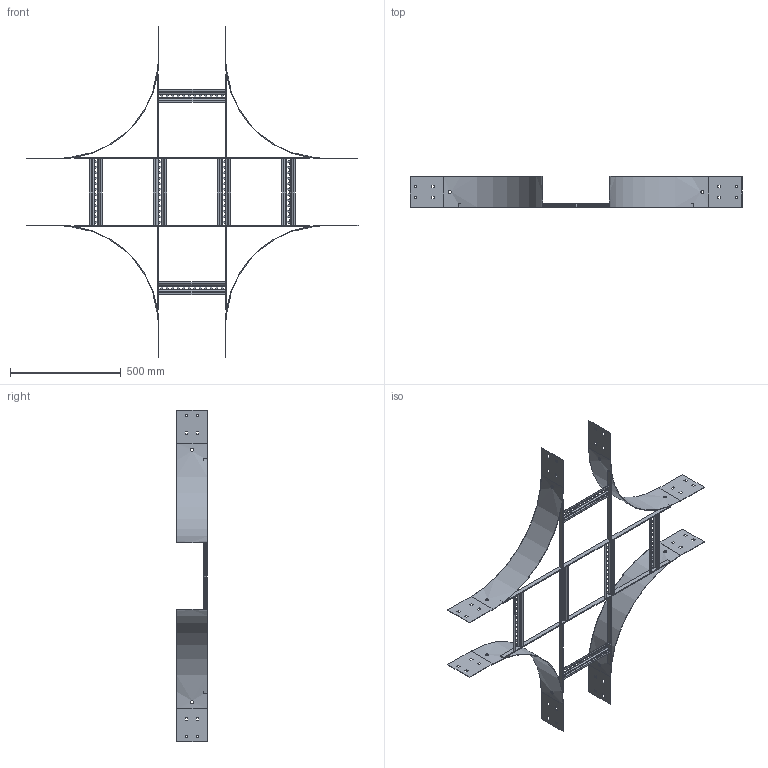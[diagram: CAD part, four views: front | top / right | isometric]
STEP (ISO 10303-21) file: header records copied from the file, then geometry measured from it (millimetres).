
FILE_DESCRIPTION (( 'STEP AP203' ), '1' );
FILE_NAME ('N20C C 3004.STEP', '2024-08-29T00:03:39', ( '' ), ( '' ), 'SwSTEP 2.0', 'SolidWorks 2023', '' );
FILE_SCHEMA (( 'CONFIG_CONTROL_DESIGN' ));
Length unit declared in the file: millimetre
Products named in the file (5): N20C C 3004; N20C RADIUS PLATE_N1-450 IR; Ladder Rung_Ladder Rung -  300mm; Ladder Tee 20x5 Flat Bar_1066; Ladder Tee 20x5 Flat Bar_378
Assembly tree (16 placements, depth 2):
  N20C C 3004
    Ladder Rung_Ladder Rung -  300mm  x6
    Ladder Tee 20x5 Flat Bar_1066  x2
    N20C RADIUS PLATE_N1-450 IR  x4
    Ladder Tee 20x5 Flat Bar_378  x4
Bounding box: 1500 x 140 x 1500 mm (x, y, z)
Volume: 1670740.4 mm3; surface area: 1573484.5 mm2
Topology: 16 solids, 16 shells, 776 faces, 2008 edges, 1264 vertices
Faces by surface type: plane 704, cylinder 72
Entity records: 5811 total; most frequent: CARTESIAN_POINT 1151, ORIENTED_EDGE 784, DIRECTION 746, EDGE_CURVE 392, LINE 364, VECTOR 364, VERTEX_POINT 248, EDGE_LOOP 194
